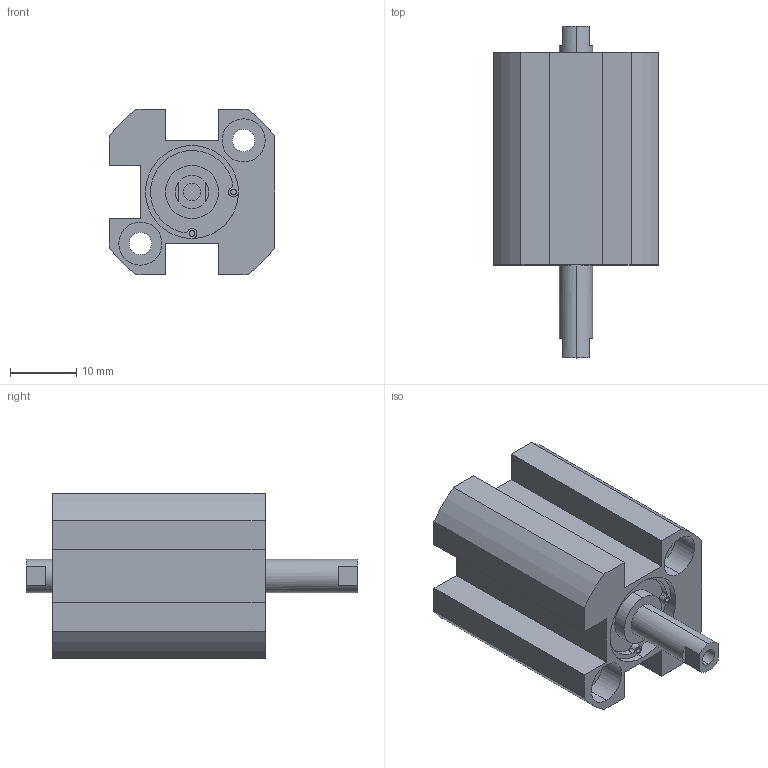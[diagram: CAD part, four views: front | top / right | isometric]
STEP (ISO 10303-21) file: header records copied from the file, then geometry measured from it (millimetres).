
FILE_DESCRIPTION (( 'STEP AP203' ), '1' );
FILE_NAME ('XC#7-10-10.STEP', '2016-05-23T08:18:38', ( '' ), ( '' ), 'SwSTEP 2.0', 'SolidWorks 2014', '' );
FILE_SCHEMA (( 'CONFIG_CONTROL_DESIGN' ));
Length unit declared in the file: millimetre
Products named in the file (1): XC#7-10-10
Bounding box: 25 x 50 x 25 mm (x, y, z)
Volume: 14009.7 mm3; surface area: 6542.8 mm2
Topology: 1 solids, 1 shells, 106 faces, 258 edges, 168 vertices
Faces by surface type: cylinder 58, plane 44, cone 4
Entity records: 3217 total; most frequent: DIRECTION 594, CARTESIAN_POINT 529, ORIENTED_EDGE 508, EDGE_CURVE 254, AXIS2_PLACEMENT_3D 233, VERTEX_POINT 168, VECTOR 128, LINE 128
